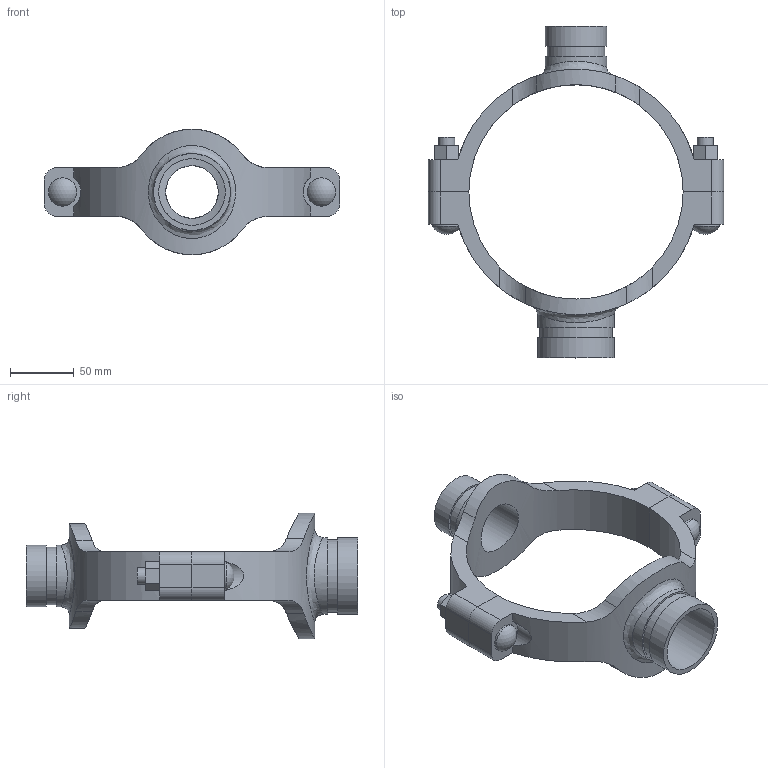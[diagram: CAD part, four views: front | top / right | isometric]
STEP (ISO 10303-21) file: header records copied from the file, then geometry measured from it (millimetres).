
FILE_DESCRIPTION(/* description */ ('VIC MECH-T BRANCH OUTLET CROSS STYLE 920N (GRVD)','CAx-IF Rec.Pracs.---Representation and Presentation of Product Manufacturing Information (PMI)---4.0---2014-10-13'),/* implementation_level */ '2;1');
FILE_NAME(/* name */ 'C:\Users\Vjadhav\AppData\Roaming\Autodesk\ApplicationPlugins\Back Up\Victaulic_IPS_Mechanical-Cross Outlet_Style 920N (OGS)\Victaulic_IPS_Mechanical-Cross Outlet_06.0x01.5x02.0 (150x40x50).stp',/* time_stamp */ '2020-08-06T19:44:45+05:00',/* author */ ('Vjadhav'),/* organization */ ('Victaulic'),/* preprocessor_version */ 'ST-DEVELOPER v17.2',/* originating_system */ 'Autodesk Inventor 2019',/* authorisation */ '');
FILE_SCHEMA (('AP242_MANAGED_MODEL_BASED_3D_ENGINEERING_MIM_LF { 1 0 10303 442 1 1 4 }'));
Length unit declared in the file: inch
Products named in the file (3): 920NG-06.0x01.5x02.0; 920NG-06.0x01.5; 920NG-06.0x02.0
Assembly tree (2 placements, depth 2):
  920NG-06.0x01.5x02.0
    920NG-06.0x01.5
    920NG-06.0x02.0
Bounding box: 231.9 x 260.6 x 98.55 mm (x, y, z)
Volume: 416342.3 mm3; surface area: 114789.4 mm2
Topology: 2 solids, 2 shells, 108 faces, 274 edges, 186 vertices
Faces by surface type: plane 54, cylinder 50, sphere 2, bspline 2
Full cylindrical faces by diameter (mm): 12.7 x4, 22.225 x2, 41.275 x1, 45.085 x1, 48.26 x2, 52.387 x1, 57.15 x1, 60.325 x2
Entity records: 4358 total; most frequent: CARTESIAN_POINT 1477, DIRECTION 552, ORIENTED_EDGE 548, EDGE_CURVE 274, AXIS2_PLACEMENT_3D 201, VERTEX_POINT 186, LINE 150, VECTOR 150
